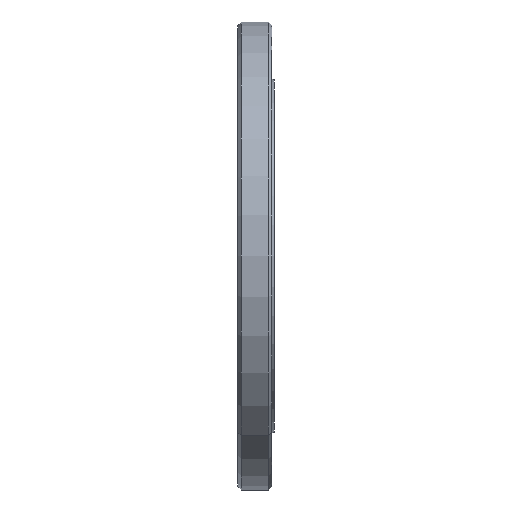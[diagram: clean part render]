
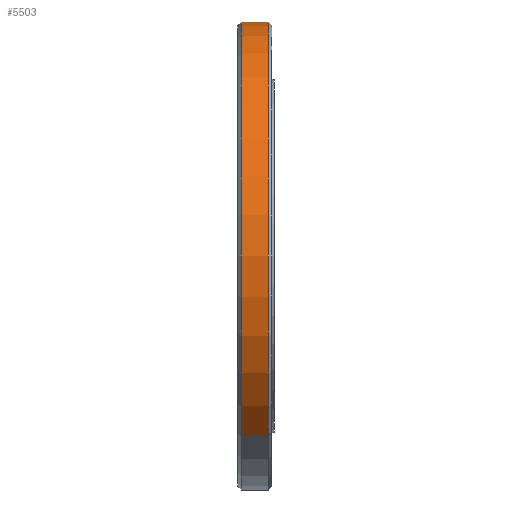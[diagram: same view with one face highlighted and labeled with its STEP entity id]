
A CAD part, left-side view. The second image highlights one B-rep face of the part: STEP entity #5503.
In plain terms, the highlighted cylindrical face has radius 95.25 mm (diameter 190.5 mm), a partial arc.
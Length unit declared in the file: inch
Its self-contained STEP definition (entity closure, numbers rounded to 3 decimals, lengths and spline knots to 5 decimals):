
#167 = CYLINDRICAL_SURFACE ( 'NONE', #5275, 3.75 ) ;
#359 = DIRECTION ( 'NONE',  ( 0., 0., -1. ) ) ;
#747 = CARTESIAN_POINT ( 'NONE',  ( 0., 0.5315, -3.75 ) ) ;
#807 = VECTOR ( 'NONE', #3653, 39.37008 ) ;
#1021 = ORIENTED_EDGE ( 'NONE', *, *, #1195, .T. ) ;
#1048 = CARTESIAN_POINT ( 'NONE',  ( 0., 0., 0. ) ) ;
#1195 = EDGE_CURVE ( 'NONE', #1882, #1387, #1463, .T. ) ;
#1197 = CARTESIAN_POINT ( 'NONE',  ( 0., 0.5315, 3.75 ) ) ;
#1387 = VERTEX_POINT ( 'NONE', #4954 ) ;
#1444 = LINE ( 'NONE', #4807, #4586 ) ;
#1463 = CIRCLE ( 'NONE', #4217, 3.75 ) ;
#1561 = VERTEX_POINT ( 'NONE', #1197 ) ;
#1589 = EDGE_CURVE ( 'NONE', #1561, #5125, #4273, .T. ) ;
#1882 = VERTEX_POINT ( 'NONE', #3322 ) ;
#2024 = ORIENTED_EDGE ( 'NONE', *, *, #1589, .T. ) ;
#2161 = DIRECTION ( 'NONE',  ( 0., 0., -1. ) ) ;
#2212 = CARTESIAN_POINT ( 'NONE',  ( 0., 0.09843, 0. ) ) ;
#2232 = DIRECTION ( 'NONE',  ( 0., 1., 0. ) ) ;
#2757 = DIRECTION ( 'NONE',  ( 0., -1., 0. ) ) ;
#2964 = DIRECTION ( 'NONE',  ( 0., -1., 0. ) ) ;
#3106 = EDGE_LOOP ( 'NONE', ( #3378, #2024, #3775, #1021 ) ) ;
#3240 = CARTESIAN_POINT ( 'NONE',  ( 0., 0., 3.75 ) ) ;
#3322 = CARTESIAN_POINT ( 'NONE',  ( 0., 0.09843, -3.75 ) ) ;
#3378 = ORIENTED_EDGE ( 'NONE', *, *, #3396, .F. ) ;
#3396 = EDGE_CURVE ( 'NONE', #1561, #1387, #4236, .T. ) ;
#3439 = AXIS2_PLACEMENT_3D ( 'NONE', #5545, #2964, #359 ) ;
#3653 = DIRECTION ( 'NONE',  ( 0., -1., 0. ) ) ;
#3775 = ORIENTED_EDGE ( 'NONE', *, *, #4185, .T. ) ;
#4185 = EDGE_CURVE ( 'NONE', #5125, #1882, #1444, .T. ) ;
#4217 = AXIS2_PLACEMENT_3D ( 'NONE', #2212, #2232, #2161 ) ;
#4236 = LINE ( 'NONE', #3240, #807 ) ;
#4273 = CIRCLE ( 'NONE', #3439, 3.75 ) ;
#4460 = DIRECTION ( 'NONE',  ( 0., 0., -1. ) ) ;
#4586 = VECTOR ( 'NONE', #5250, 39.37008 ) ;
#4761 = FACE_OUTER_BOUND ( 'NONE', #3106, .T. ) ;
#4807 = CARTESIAN_POINT ( 'NONE',  ( 0., 0., -3.75 ) ) ;
#4954 = CARTESIAN_POINT ( 'NONE',  ( 0., 0.09843, 3.75 ) ) ;
#5125 = VERTEX_POINT ( 'NONE', #747 ) ;
#5250 = DIRECTION ( 'NONE',  ( 0., -1., 0. ) ) ;
#5275 = AXIS2_PLACEMENT_3D ( 'NONE', #1048, #2757, #4460 ) ;
#5503 = ADVANCED_FACE ( 'NONE', ( #4761 ), #167, .T. ) ;
#5545 = CARTESIAN_POINT ( 'NONE',  ( 0., 0.5315, 0. ) ) ;
